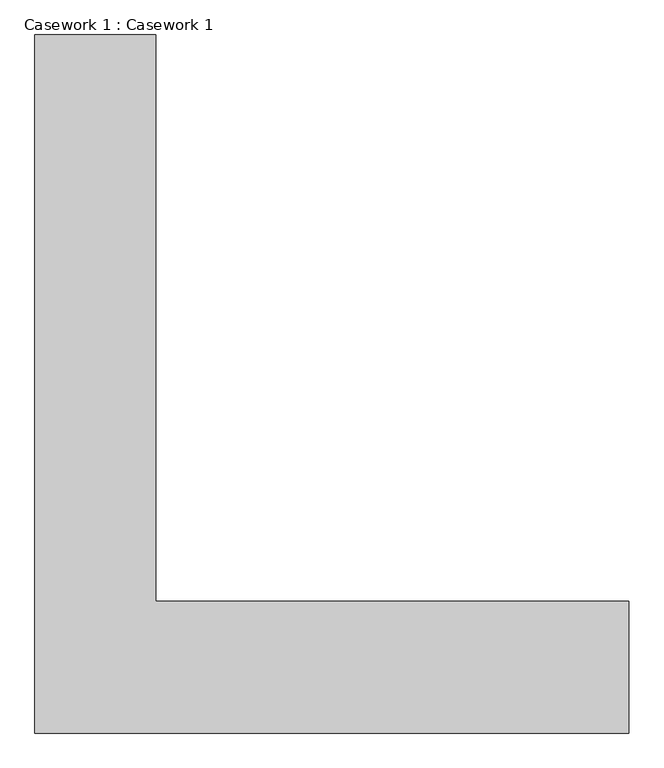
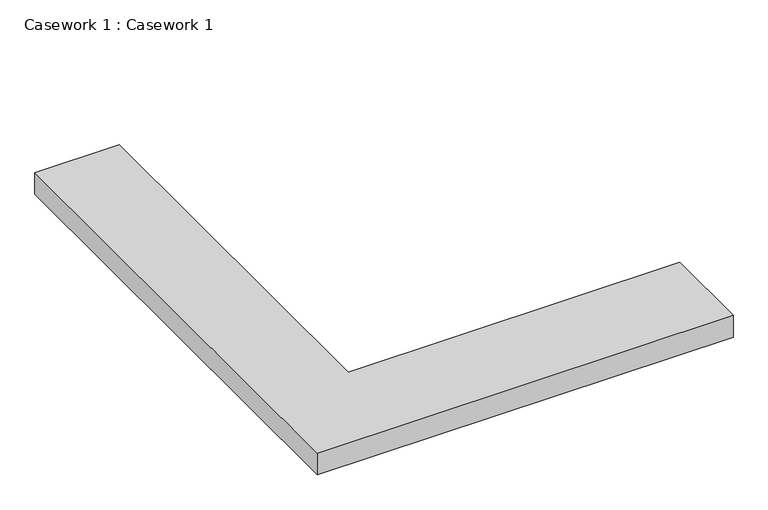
"""IFC4 building model written with IfcOpenShell, lengths in millimetres: furniture geometry, Casework 1 : Casework 1."""

from ifc_helpers import new_model, si_unit, origin, origin_with_axes, place, context, project, spatial, polyline, outline, extrude, source, transform, mapped, element, save


def casework_1_casework_1_7aebe958(model_context):
    return source(origin(), model_context, "Body", "SweptSolid", [
        extrude(outline(polyline([(-2692.3834094, -4787.0637549), (-2692.3834094, -7367.0637549), (-537.3834094, -7367.0637549), (-537.3834094, -7967.0637549), (-3242.3834094, -7967.0637549), (-3242.3834094, -4787.0637549), (-2692.3834094, -4787.0637549)])), origin_with_axes(), (0.0, 0.0, 1.0), 150.0),
    ])


if __name__ == "__main__":
    model = new_model("IFC4")
    model_context = context("Model", 3, world=origin())
    ifc_project = project(units=[si_unit("LENGTHUNIT", "METRE", prefix="MILLI")], contexts=[model_context])
    site = spatial("IfcSite", under=ifc_project)
    building = spatial("IfcBuilding", under=site)
    placement = place(None, origin())
    casework_1_casework_1_shape = casework_1_casework_1_7aebe958(model_context)
    element("IfcFurniture", 1, ObjectType="Casework 1 : Casework 1", at=placement, inside=building, context=model_context, shape_type="MappedRepresentation", body=[
        mapped(casework_1_casework_1_shape, transform((0.0, 0.0, 0.0), x_axis=(1.0, 0.0, 0.0), y_axis=(0.0, 1.0, 0.0), z_axis=(0.0, 0.0, 1.0))),
    ])
    save(model, "model.ifc")
